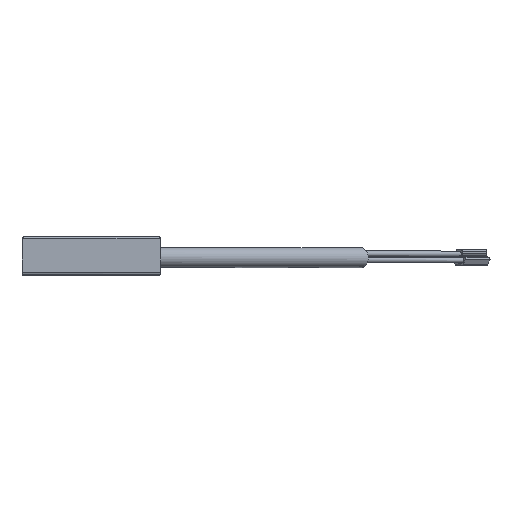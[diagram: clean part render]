
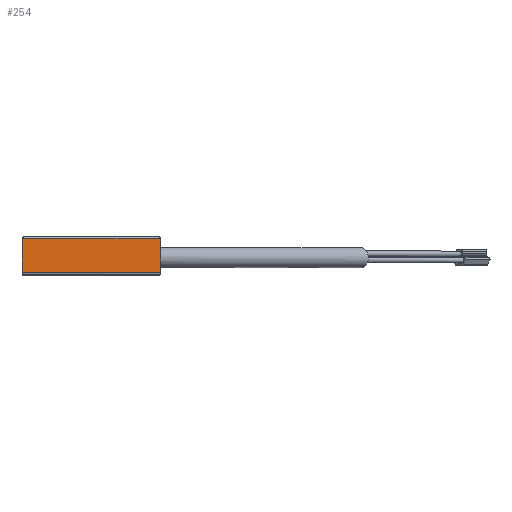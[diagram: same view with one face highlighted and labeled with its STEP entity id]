
A CAD part, top view. The second image highlights one B-rep face of the part: STEP entity #254.
In plain terms, the highlighted planar face has unit normal (0, 0, 1).
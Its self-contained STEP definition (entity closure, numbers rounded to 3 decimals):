
#254=ADVANCED_FACE('',(#572),#422,.T.);
#422=PLANE('',#3973);
#572=FACE_OUTER_BOUND('',#776,.T.);
#776=EDGE_LOOP('',(#2026,#2027,#2028,#2029,#2030,#2031));
#1056=LINE('',#5704,#1439);
#1064=LINE('',#5729,#1447);
#1065=LINE('',#5733,#1448);
#1066=LINE('',#5735,#1449);
#1067=LINE('',#5736,#1450);
#1068=LINE('',#5738,#1451);
#1439=VECTOR('',#4596,1.);
#1447=VECTOR('',#4620,1.);
#1448=VECTOR('',#4625,1.);
#1449=VECTOR('',#4626,1.);
#1450=VECTOR('',#4627,1.);
#1451=VECTOR('',#4628,1.);
#2026=ORIENTED_EDGE('',*,*,#3337,.F.);
#2027=ORIENTED_EDGE('',*,*,#3351,.T.);
#2028=ORIENTED_EDGE('',*,*,#3352,.T.);
#2029=ORIENTED_EDGE('',*,*,#3349,.F.);
#2030=ORIENTED_EDGE('',*,*,#3353,.T.);
#2031=ORIENTED_EDGE('',*,*,#3354,.T.);
#2924=VERTEX_POINT('',#5703);
#2925=VERTEX_POINT('',#5705);
#2933=VERTEX_POINT('',#5728);
#2934=VERTEX_POINT('',#5730);
#2935=VERTEX_POINT('',#5734);
#2936=VERTEX_POINT('',#5737);
#3337=EDGE_CURVE('',#2924,#2925,#1056,.T.);
#3349=EDGE_CURVE('',#2933,#2934,#1064,.T.);
#3351=EDGE_CURVE('',#2924,#2935,#1065,.T.);
#3352=EDGE_CURVE('',#2935,#2934,#1066,.T.);
#3353=EDGE_CURVE('',#2933,#2936,#1067,.T.);
#3354=EDGE_CURVE('',#2936,#2925,#1068,.T.);
#3973=AXIS2_PLACEMENT_3D('',#5739,#4629,#4630);
#4596=DIRECTION('',(1.,0.,0.));
#4620=DIRECTION('',(-1.,0.,0.));
#4625=DIRECTION('',(-0.035,-0.999,0.));
#4626=DIRECTION('',(0.,-1.,0.));
#4627=DIRECTION('',(0.,1.,0.));
#4628=DIRECTION('',(-0.035,0.999,0.));
#4629=DIRECTION('',(0.,0.,1.));
#4630=DIRECTION('',(-1.,0.,0.));
#5703=CARTESIAN_POINT('',(-9.908,2.63,50.));
#5704=CARTESIAN_POINT('',(10.,2.63,50.));
#5705=CARTESIAN_POINT('',(9.908,2.63,50.));
#5728=CARTESIAN_POINT('',(10.,-2.3,50.));
#5729=CARTESIAN_POINT('',(10.,-2.3,50.));
#5730=CARTESIAN_POINT('',(-10.,-2.3,50.));
#5733=CARTESIAN_POINT('',(-9.908,2.64,50.));
#5734=CARTESIAN_POINT('',(-10.,0.,50.));
#5735=CARTESIAN_POINT('',(-10.,0.,50.));
#5736=CARTESIAN_POINT('',(10.,-2.3,50.));
#5737=CARTESIAN_POINT('',(10.,0.,50.));
#5738=CARTESIAN_POINT('',(10.,0.,50.));
#5739=CARTESIAN_POINT('',(-9.7,-2.3,50.));
